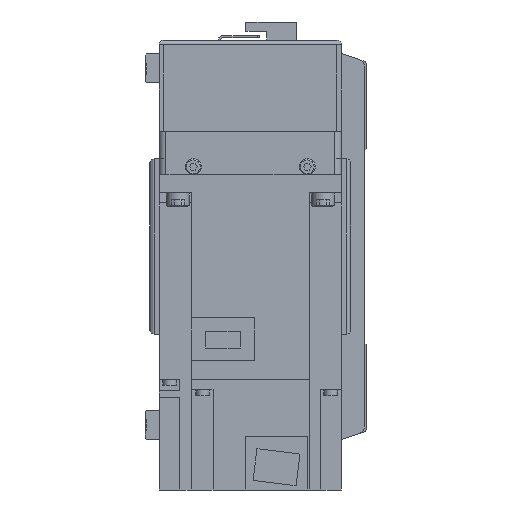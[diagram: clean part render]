
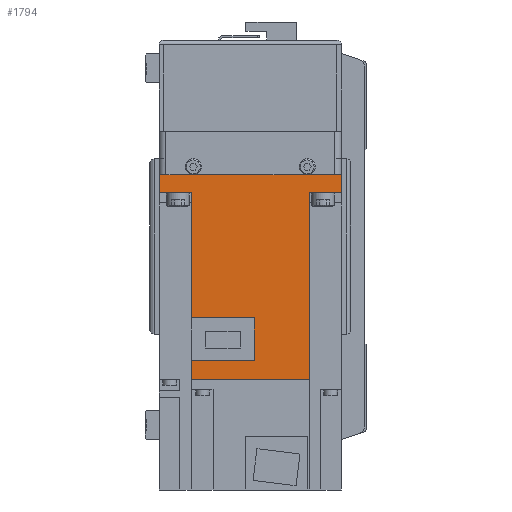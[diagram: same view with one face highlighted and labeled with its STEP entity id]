
A CAD part, left-side view. The second image highlights one B-rep face of the part: STEP entity #1794.
In plain terms, the highlighted planar face has unit normal (-1, 0, 0) as drawn and (1, 0, 0) by its records, which use the part's own axes.
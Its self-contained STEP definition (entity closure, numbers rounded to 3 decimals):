
#1794 = ADVANCED_FACE( '', ( #4258 ), #4259, .F. );
#4258 = FACE_OUTER_BOUND( '', #7566, .T. );
#4259 = PLANE( '', #7567 );
#7566 = EDGE_LOOP( '', ( #12609, #12610, #12611, #12612, #12613, #12614, #12615, #12616, #12617, #12618, #12619, #12620 ) );
#7567 = AXIS2_PLACEMENT_3D( '', #12621, #12622, #12623 );
#12609 = ORIENTED_EDGE( '', *, *, #20421, .F. );
#12610 = ORIENTED_EDGE( '', *, *, #20229, .F. );
#12611 = ORIENTED_EDGE( '', *, *, #19694, .F. );
#12612 = ORIENTED_EDGE( '', *, *, #20422, .T. );
#12613 = ORIENTED_EDGE( '', *, *, #20423, .F. );
#12614 = ORIENTED_EDGE( '', *, *, #20424, .T. );
#12615 = ORIENTED_EDGE( '', *, *, #20425, .T. );
#12616 = ORIENTED_EDGE( '', *, *, #20426, .F. );
#12617 = ORIENTED_EDGE( '', *, *, #20427, .F. );
#12618 = ORIENTED_EDGE( '', *, *, #20231, .F. );
#12619 = ORIENTED_EDGE( '', *, *, #19869, .F. );
#12620 = ORIENTED_EDGE( '', *, *, #20428, .F. );
#12621 = CARTESIAN_POINT( '', ( 40., 89.8, 40. ) );
#12622 = DIRECTION( '', ( -1., 0., 0. ) );
#12623 = DIRECTION( '', ( 0., 0., 1. ) );
#19694 = EDGE_CURVE( '', #23834, #23830, #23836, .T. );
#19869 = EDGE_CURVE( '', #24120, #24121, #24122, .T. );
#20229 = EDGE_CURVE( '', #23830, #24704, #24705, .T. );
#20231 = EDGE_CURVE( '', #24121, #24707, #24708, .T. );
#20421 = EDGE_CURVE( '', #24704, #24993, #24994, .T. );
#20422 = EDGE_CURVE( '', #23834, #24995, #24996, .T. );
#20423 = EDGE_CURVE( '', #24997, #24995, #24998, .T. );
#20424 = EDGE_CURVE( '', #24997, #24999, #25000, .T. );
#20425 = EDGE_CURVE( '', #24999, #25001, #25002, .T. );
#20426 = EDGE_CURVE( '', #25003, #25001, #25004, .T. );
#20427 = EDGE_CURVE( '', #24707, #25003, #25005, .T. );
#20428 = EDGE_CURVE( '', #24993, #24120, #25006, .T. );
#23830 = VERTEX_POINT( '', #29678 );
#23834 = VERTEX_POINT( '', #29684 );
#23836 = LINE( '', #29687, #29688 );
#24120 = VERTEX_POINT( '', #30125 );
#24121 = VERTEX_POINT( '', #30126 );
#24122 = LINE( '', #30127, #30128 );
#24704 = VERTEX_POINT( '', #31112 );
#24705 = LINE( '', #31113, #31114 );
#24707 = VERTEX_POINT( '', #31117 );
#24708 = LINE( '', #31118, #31119 );
#24993 = VERTEX_POINT( '', #31557 );
#24994 = LINE( '', #31558, #31559 );
#24995 = VERTEX_POINT( '', #31560 );
#24996 = LINE( '', #31561, #31562 );
#24997 = VERTEX_POINT( '', #31563 );
#24998 = LINE( '', #31564, #31565 );
#24999 = VERTEX_POINT( '', #31566 );
#25000 = LINE( '', #31567, #31568 );
#25001 = VERTEX_POINT( '', #31569 );
#25002 = LINE( '', #31570, #31571 );
#25003 = VERTEX_POINT( '', #31572 );
#25004 = LINE( '', #31573, #31574 );
#25005 = LINE( '', #31575, #31576 );
#25006 = LINE( '', #31577, #31578 );
#29678 = CARTESIAN_POINT( '', ( 40., 89.8, -25.95 ) );
#29684 = CARTESIAN_POINT( '', ( 40., 89.8, 25.95 ) );
#29687 = CARTESIAN_POINT( '', ( 40., 89.8, 40. ) );
#29688 = VECTOR( '', #36350, 1000. );
#30125 = CARTESIAN_POINT( '', ( 40., 62.8, 1.8 ) );
#30126 = CARTESIAN_POINT( '', ( 40., 62.8, -25.95 ) );
#30127 = CARTESIAN_POINT( '', ( 40., 62.8, 1.8 ) );
#30128 = VECTOR( '', #36533, 1000. );
#31112 = CARTESIAN_POINT( '', ( 40., 81.4, -25.95 ) );
#31113 = CARTESIAN_POINT( '', ( 40., 158., -25.95 ) );
#31114 = VECTOR( '', #36959, 1000. );
#31117 = CARTESIAN_POINT( '', ( 40., 8., -25.95 ) );
#31118 = CARTESIAN_POINT( '', ( 40., 158., -25.95 ) );
#31119 = VECTOR( '', #36961, 1000. );
#31557 = CARTESIAN_POINT( '', ( 40., 81.4, 1.8 ) );
#31558 = CARTESIAN_POINT( '', ( 40., 81.4, -26. ) );
#31559 = VECTOR( '', #37210, 1000. );
#31560 = CARTESIAN_POINT( '', ( 40., 8., 25.95 ) );
#31561 = CARTESIAN_POINT( '', ( 40., 158., 25.95 ) );
#31562 = VECTOR( '', #37211, 1000. );
#31563 = CARTESIAN_POINT( '', ( 40., 8., 40. ) );
#31564 = CARTESIAN_POINT( '', ( 40., 8., 40. ) );
#31565 = VECTOR( '', #37212, 1000. );
#31566 = CARTESIAN_POINT( '', ( 40., 0., 40. ) );
#31567 = CARTESIAN_POINT( '', ( 40., 89.8, 40. ) );
#31568 = VECTOR( '', #37213, 1000. );
#31569 = CARTESIAN_POINT( '', ( 40., 0., -40. ) );
#31570 = CARTESIAN_POINT( '', ( 40., 0., 40. ) );
#31571 = VECTOR( '', #37214, 1000. );
#31572 = CARTESIAN_POINT( '', ( 40., 8., -40. ) );
#31573 = CARTESIAN_POINT( '', ( 40., 89.8, -40. ) );
#31574 = VECTOR( '', #37215, 1000. );
#31575 = CARTESIAN_POINT( '', ( 40., 8., 40. ) );
#31576 = VECTOR( '', #37216, 1000. );
#31577 = CARTESIAN_POINT( '', ( 40., 81.4, 1.8 ) );
#31578 = VECTOR( '', #37217, 1000. );
#36350 = DIRECTION( '', ( 0., 0., -1. ) );
#36533 = DIRECTION( '', ( 0., 0., -1. ) );
#36959 = DIRECTION( '', ( 0., -1., 0. ) );
#36961 = DIRECTION( '', ( 0., -1., 0. ) );
#37210 = DIRECTION( '', ( 0., 0., 1. ) );
#37211 = DIRECTION( '', ( 0., -1., 0. ) );
#37212 = DIRECTION( '', ( 0., 0., -1. ) );
#37213 = DIRECTION( '', ( 0., -1., 0. ) );
#37214 = DIRECTION( '', ( 0., 0., -1. ) );
#37215 = DIRECTION( '', ( 0., -1., 0. ) );
#37216 = DIRECTION( '', ( 0., 0., -1. ) );
#37217 = DIRECTION( '', ( 0., -1., 0. ) );
